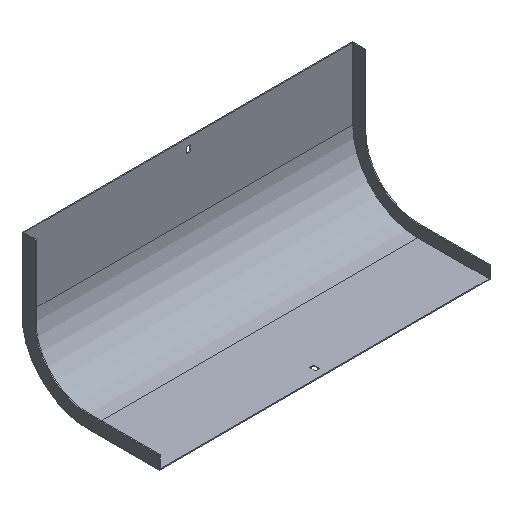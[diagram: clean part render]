
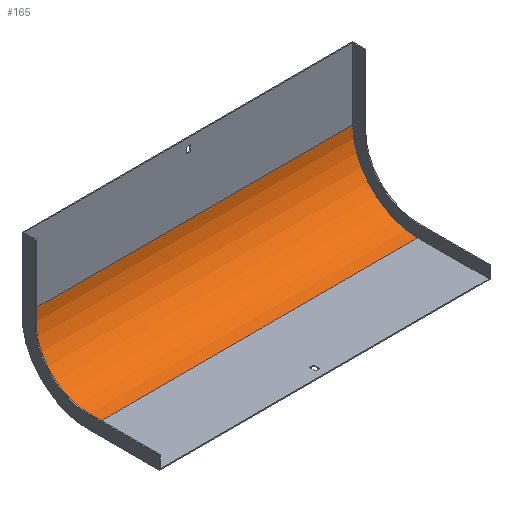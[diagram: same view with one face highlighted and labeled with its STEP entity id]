
A CAD part, isometric view. The second image highlights one B-rep face of the part: STEP entity #165.
In plain terms, the highlighted cylindrical face has radius 100 mm (diameter 200 mm), a partial arc.
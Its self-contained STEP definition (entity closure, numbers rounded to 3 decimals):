
#6 = VERTEX_POINT ( 'NONE', #144 ) ;
#14 = LINE ( 'NONE', #790, #838 ) ;
#28 = ORIENTED_EDGE ( 'NONE', *, *, #765, .T. ) ;
#34 = DIRECTION ( 'NONE',  ( 1., 0., 0. ) ) ;
#61 = AXIS2_PLACEMENT_3D ( 'NONE', #178, #34, #387 ) ;
#62 = CYLINDRICAL_SURFACE ( 'NONE', #202, 100. ) ;
#92 = ORIENTED_EDGE ( 'NONE', *, *, #170, .T. ) ;
#96 = ORIENTED_EDGE ( 'NONE', *, *, #801, .F. ) ;
#136 = ORIENTED_EDGE ( 'NONE', *, *, #680, .F. ) ;
#144 = CARTESIAN_POINT ( 'NONE',  ( -252., -101.5, -209. ) ) ;
#165 = ADVANCED_FACE ( 'NONE', ( #663 ), #62, .F. ) ;
#169 = EDGE_LOOP ( 'NONE', ( #96, #136, #92, #28 ) ) ;
#170 = EDGE_CURVE ( 'NONE', #756, #759, #275, .T. ) ;
#178 = CARTESIAN_POINT ( 'NONE',  ( -252., -101.5, -109. ) ) ;
#198 = CIRCLE ( 'NONE', #61, 100. ) ;
#202 = AXIS2_PLACEMENT_3D ( 'NONE', #347, #535, #531 ) ;
#205 = DIRECTION ( 'NONE',  ( 1., 0., 0. ) ) ;
#214 = DIRECTION ( 'NONE',  ( -1., 0., 0. ) ) ;
#275 = CIRCLE ( 'NONE', #800, 100. ) ;
#278 = DIRECTION ( 'NONE',  ( 0., 0., 1. ) ) ;
#283 = CARTESIAN_POINT ( 'NONE',  ( 253.5, -1.5, -109. ) ) ;
#344 = CARTESIAN_POINT ( 'NONE',  ( -252., -1.5, -109. ) ) ;
#347 = CARTESIAN_POINT ( 'NONE',  ( 253.5, -101.5, -109. ) ) ;
#387 = DIRECTION ( 'NONE',  ( 0., 0., 1. ) ) ;
#494 = CARTESIAN_POINT ( 'NONE',  ( 252., -1.5, -109. ) ) ;
#531 = DIRECTION ( 'NONE',  ( 0., 0., 1. ) ) ;
#535 = DIRECTION ( 'NONE',  ( -1., 0., 0. ) ) ;
#597 = CARTESIAN_POINT ( 'NONE',  ( 252., -101.5, -109. ) ) ;
#658 = VERTEX_POINT ( 'NONE', #344 ) ;
#663 = FACE_OUTER_BOUND ( 'NONE', #169, .T. ) ;
#680 = EDGE_CURVE ( 'NONE', #756, #6, #14, .T. ) ;
#727 = DIRECTION ( 'NONE',  ( -1., 0., 0. ) ) ;
#740 = VECTOR ( 'NONE', #214, 1000. ) ;
#750 = CARTESIAN_POINT ( 'NONE',  ( 252., -101.5, -209. ) ) ;
#756 = VERTEX_POINT ( 'NONE', #750 ) ;
#759 = VERTEX_POINT ( 'NONE', #494 ) ;
#763 = LINE ( 'NONE', #283, #740 ) ;
#765 = EDGE_CURVE ( 'NONE', #759, #658, #763, .T. ) ;
#790 = CARTESIAN_POINT ( 'NONE',  ( 253.5, -101.5, -209. ) ) ;
#800 = AXIS2_PLACEMENT_3D ( 'NONE', #597, #205, #278 ) ;
#801 = EDGE_CURVE ( 'NONE', #6, #658, #198, .T. ) ;
#838 = VECTOR ( 'NONE', #727, 1000. ) ;
